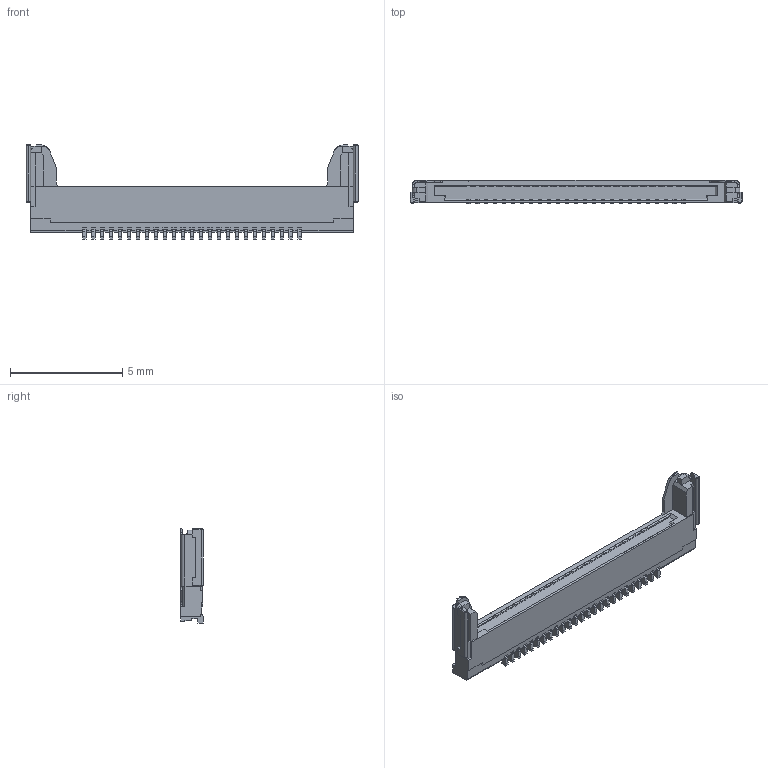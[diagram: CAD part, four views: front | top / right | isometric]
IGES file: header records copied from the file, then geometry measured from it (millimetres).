
Start section: SolidWorks IGES file using analytic representation for surfaces
Global section: file name: C:\Documents and Settings\kaihatsu-3dcad-4\デスクトップ\120307 CAB V IGES 作成\25P\IGES\20347-025Exx2C RECE IGES R7 ALL.IGS; native system: SolidWorks 2011; preprocessor: SolidWorks 2011; author: kaihatsu-3dcad-4; date: 120308.094317; units: millimetre
Bounding box: 14.8 x 1.02 x 4.2 mm (x, y, z)
Surface area: 129.3 mm2 (no closed solid volume)
Topology: 0 solids, 0 shells, 987 faces, 5973 edges, 5943 vertices
Faces by surface type: bspline 829, revolution 158
